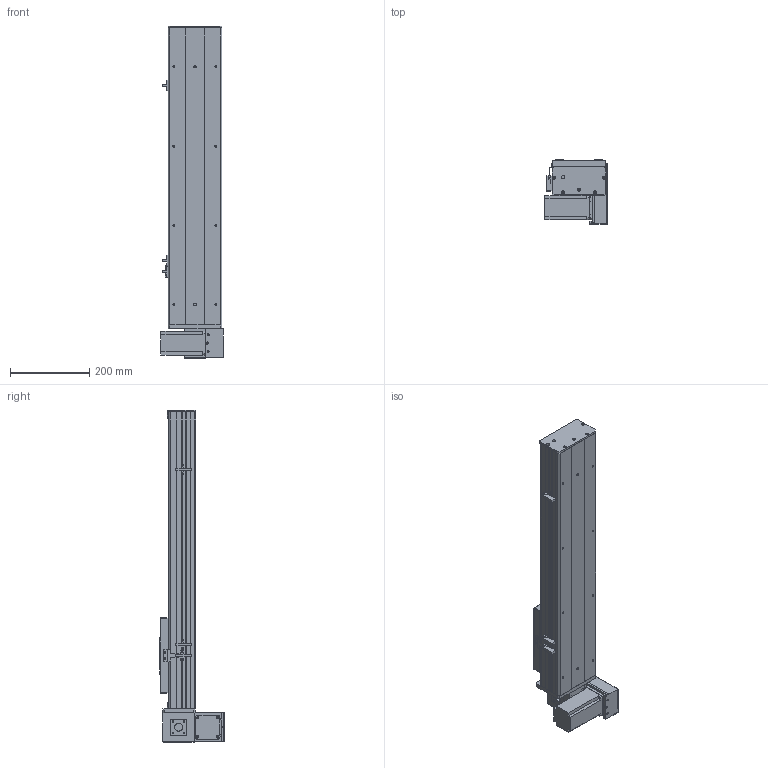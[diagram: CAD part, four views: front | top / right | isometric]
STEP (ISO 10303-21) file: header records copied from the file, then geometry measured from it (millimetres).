
FILE_DESCRIPTION (( 'STEP AP203' ), '1' );
FILE_NAME ('Y135CB-D90-S450-BM-P400W.STEP', '2020-02-18T09:17:00', ( '微软用户' ), ( '微软中国' ), 'SwSTEP 2.0', 'SolidWorks 2017', '' );
FILE_SCHEMA (( 'CONFIG_CONTROL_DESIGN' ));
Length unit declared in the file: millimetre
Products named in the file (18): 5CB --掛极耜裔啣-; Y10B-耜蚾蟀諉啣----; C-詩湍揤踡え-陔; Y135CB-耜裔; Y135CB-D90-S450-BM-P400W; 135CB--詩湍-CE; 135CB---遴掛极.-; Y100-135俋离換覜ん--; 35CB---喘謫眊楊擘啣; Y135C-陔俋离換覜結え-; 0B-埴倛裔啣; 5C--俋欶; 0B-源倛裔啣; C-雄赽釱--; 0B-萇儂楊擘啣; Y10B--々湍喘謫眊--666; san松下电机400不带刹车----; 00B-俋欶BM--
Assembly tree (21 placements, depth 2):
  Y135CB-D90-S450-BM-P400W
    Y135CB-耜裔
    135CB---遴掛极.-
    35CB---喘謫眊楊擘啣
    0B-埴倛裔啣
    0B-源倛裔啣
    0B-萇儂楊擘啣
    san松下电机400不带刹车----
    5CB --掛极耜裔啣-  x2
    C-詩湍揤踡え-陔  x2
    135CB--詩湍-CE
    Y100-135俋离換覜ん--  x3
    Y135C-陔俋离換覜結え-
    5C--俋欶
    C-雄赽釱--
    Y10B--々湍喘謫眊--666
    00B-俋欶BM--
    Y10B-耜蚾蟀諉啣----
Bounding box: 157 x 163.3 x 838 mm (x, y, z)
Volume: 2958208.4 mm3; surface area: 1142806.8 mm2
Topology: 21 solids, 21 shells, 933 faces, 2473 edges, 1638 vertices
Faces by surface type: cylinder 461, plane 456, cone 16
Entity records: 28743 total; most frequent: DIRECTION 4773, CARTESIAN_POINT 4680, ORIENTED_EDGE 4422, EDGE_CURVE 2211, AXIS2_PLACEMENT_3D 1735, VERTEX_POINT 1466, LINE 1303, VECTOR 1303
